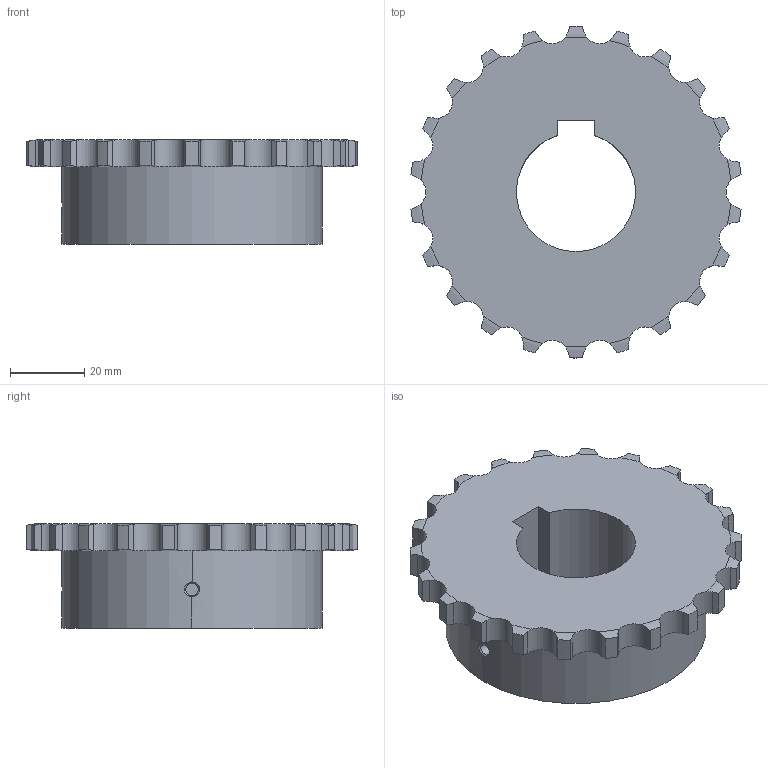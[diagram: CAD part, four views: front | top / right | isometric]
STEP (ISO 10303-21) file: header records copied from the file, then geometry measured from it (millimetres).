
FILE_DESCRIPTION((''),'2;1');
FILE_NAME('510-201-3222_PRT','2021-02-13T',('Brieden'),('Brieden'),'PRO/ENGINEER BY PARAMETRIC TECHNOLOGY CORPORATION, 2010160','PRO/ENGINEER BY PARAMETRIC TECHNOLOGY CORPORATION, 2010160','');
FILE_SCHEMA(('AUTOMOTIVE_DESIGN { 1 0 10303 214 1 1 1 1 }'));
Length unit declared in the file: millimetre
Products named in the file (1): 510-201-3222_PRT
Bounding box: 88.74 x 89.23 x 28 mm (x, y, z)
Volume: 96696.1 mm3; surface area: 20002.9 mm2
Topology: 1 solids, 1 shells, 153 faces, 441 edges, 292 vertices
Faces by surface type: cylinder 95, torus 44, plane 8, bspline 6
Entity records: 7372 total; most frequent: CARTESIAN_POINT 2209, ORIENTED_EDGE 882, DIRECTION 689, PRESENTATION_STYLE_ASSIGNMENT 442, STYLED_ITEM 442, CURVE_STYLE 441, EDGE_CURVE 441, VERTEX_POINT 292
